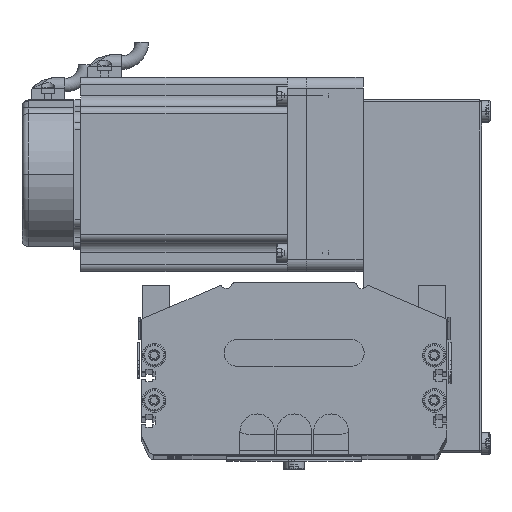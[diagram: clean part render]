
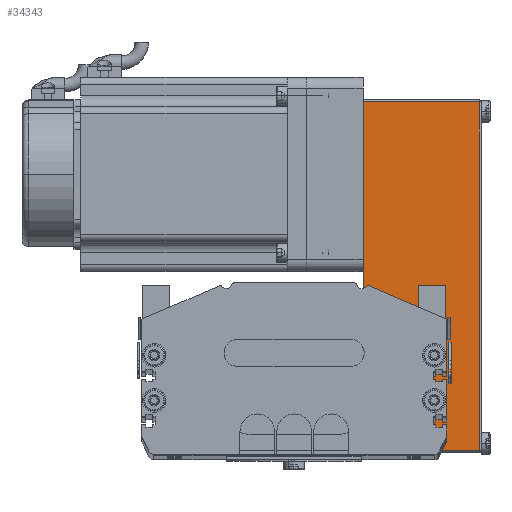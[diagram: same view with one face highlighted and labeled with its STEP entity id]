
A CAD part, top view. The second image highlights one B-rep face of the part: STEP entity #34343.
In plain terms, the highlighted planar face has unit normal (0, 0, 1) as drawn and (0, -1, 0) by its records, which use the part's own axes.
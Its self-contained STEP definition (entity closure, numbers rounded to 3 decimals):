
#34031 = ORIENTED_EDGE ( 'NONE', *, *, #34579, .T. ) ;
#34343 = ADVANCED_FACE ( 'NONE', ( #67616 ), #67659, .F. ) ;
#34352 = EDGE_CURVE ( 'NONE', #34432, #34521, #67567, .T. ) ;
#34432 = VERTEX_POINT ( 'NONE', #67728 ) ;
#34487 = EDGE_CURVE ( 'NONE', #34594, #34432, #68223, .T. ) ;
#34490 = ORIENTED_EDGE ( 'NONE', *, *, #34580, .T. ) ;
#34491 = VERTEX_POINT ( 'NONE', #68063 ) ;
#34492 = ORIENTED_EDGE ( 'NONE', *, *, #34487, .T. ) ;
#34504 = EDGE_LOOP ( 'NONE', ( #34570, #34031, #34490, #34492 ) ) ;
#34521 = VERTEX_POINT ( 'NONE', #68101 ) ;
#34570 = ORIENTED_EDGE ( 'NONE', *, *, #34352, .T. ) ;
#34579 = EDGE_CURVE ( 'NONE', #34521, #34491, #68272, .T. ) ;
#34580 = EDGE_CURVE ( 'NONE', #34491, #34594, #68308, .T. ) ;
#34594 = VERTEX_POINT ( 'NONE', #68277 ) ;
#67562 = DIRECTION ( 'NONE',  ( 1., 0., 0. ) ) ;
#67563 = VECTOR ( 'NONE', #67562, 1000. ) ;
#67564 = CARTESIAN_POINT ( 'NONE',  ( 32., -40., 0. ) ) ;
#67567 = LINE ( 'NONE', #67564, #67563 ) ;
#67604 = DIRECTION ( 'NONE',  ( -1., 0., 0. ) ) ;
#67605 = DIRECTION ( 'NONE',  ( 0., 1., 0. ) ) ;
#67606 = CARTESIAN_POINT ( 'NONE',  ( 32., -40., 52.5 ) ) ;
#67616 = FACE_OUTER_BOUND ( 'NONE', #34504, .T. ) ;
#67634 = AXIS2_PLACEMENT_3D ( 'NONE', #67606, #67605, #67604 ) ;
#67659 = PLANE ( 'NONE',  #67634 ) ;
#67728 = CARTESIAN_POINT ( 'NONE',  ( -123.2, -40., 0. ) ) ;
#68052 = DIRECTION ( 'NONE',  ( 0., 0., -1. ) ) ;
#68053 = VECTOR ( 'NONE', #68052, 1000. ) ;
#68054 = CARTESIAN_POINT ( 'NONE',  ( -123.2, -40., 52.5 ) ) ;
#68063 = CARTESIAN_POINT ( 'NONE',  ( 31., -40., 51.5 ) ) ;
#68101 = CARTESIAN_POINT ( 'NONE',  ( 31., -40., 0. ) ) ;
#68223 = LINE ( 'NONE', #68054, #68053 ) ;
#68271 = CARTESIAN_POINT ( 'NONE',  ( 31., -40., 52.5 ) ) ;
#68272 = LINE ( 'NONE', #68271, #68276 ) ;
#68276 = VECTOR ( 'NONE', #68298, 1000. ) ;
#68277 = CARTESIAN_POINT ( 'NONE',  ( -123.2, -40., 51.5 ) ) ;
#68287 = DIRECTION ( 'NONE',  ( -1., 0., 0. ) ) ;
#68288 = VECTOR ( 'NONE', #68287, 1000. ) ;
#68297 = CARTESIAN_POINT ( 'NONE',  ( 32., -40., 51.5 ) ) ;
#68298 = DIRECTION ( 'NONE',  ( 0., 0., 1. ) ) ;
#68308 = LINE ( 'NONE', #68297, #68288 ) ;
